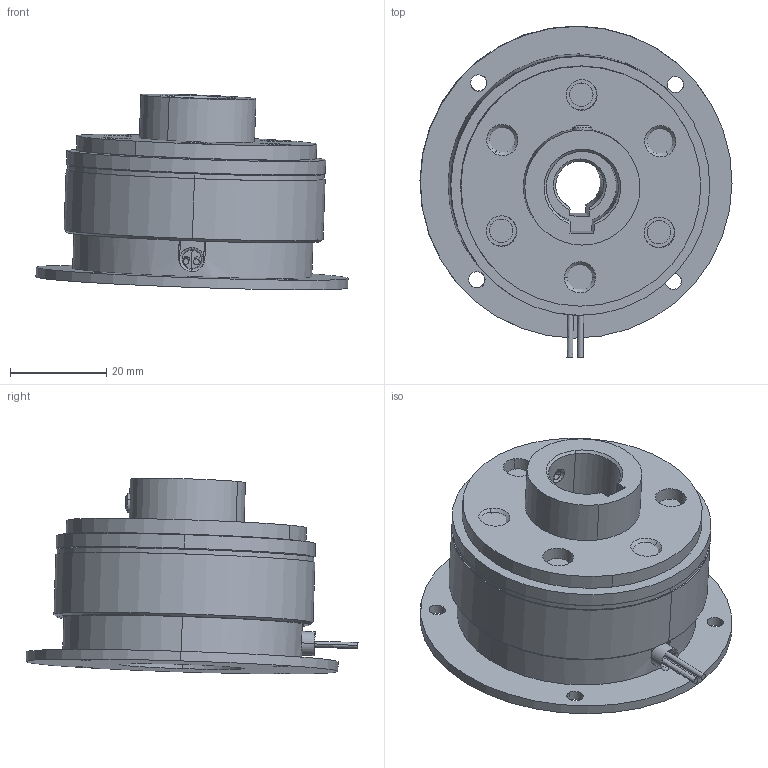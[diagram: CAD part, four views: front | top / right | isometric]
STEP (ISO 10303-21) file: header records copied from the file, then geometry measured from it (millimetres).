
FILE_DESCRIPTION((''),'2;1');
FILE_NAME('G:\Konstruktion\Datenkonvertierung\step\14.100.05.111.stp','2004-02-16T09:16:10',('Schöttelndreier'),(''),'Autodesk Inventor 8','Autodesk Inventor 8','');
FILE_SCHEMA(('AUTOMOTIVE_DESIGN { 1 0 10303 214 1 1 1 1 }'));
Length unit declared in the file: millimetre
Products named in the file (18): 14.100.05.111; 14.100.05.010-001 dxf; 14.100.05.992-300 dxf; 14.100.05.992-001 dxf; Spritzmasse; Reibbelag_05 dxf; 14.100.05.100-001 dxf; 14.100.05.994-105 dxf; 14.100.05.991-001 dxf; Spule_05 dxf; 14.100.05.001-001; 14.100.05.003-001; 14.100.05.993-001; 14.102.05-53.002; Niet1; 14.100.05.993-200; Niet2; DIN 916  (Regelgewinde) M4  x  5
Assembly tree (21 placements, depth 4):
  14.100.05.111
    14.100.05.010-001 dxf
      14.100.05.992-300 dxf
      14.100.05.992-001 dxf
      Spritzmasse
      Reibbelag_05 dxf
    14.100.05.100-001 dxf
      14.100.05.994-105 dxf
      14.100.05.991-001 dxf
      Spule_05 dxf
    14.100.05.001-001
      14.100.05.003-001
        14.100.05.993-001
        14.102.05-53.002
        Niet1  x3
      14.100.05.993-200
      Niet2  x3
      DIN 916  (Regelgewinde) M4  x  5
Bounding box: 65.03 x 69.17 x 40.78 mm (x, y, z)
Volume: 57322.5 mm3; surface area: 47367.7 mm2
Topology: 17 solids, 17 shells, 270 faces, 610 edges, 388 vertices
Faces by surface type: cylinder 141, plane 75, cone 47, bspline 5, torus 2
Entity records: 7666 total; most frequent: CARTESIAN_POINT 1519, DIRECTION 1338, ORIENTED_EDGE 1084, AXIS2_PLACEMENT_3D 560, EDGE_CURVE 542, VERTEX_POINT 348, EDGE_LOOP 314, CIRCLE 292
